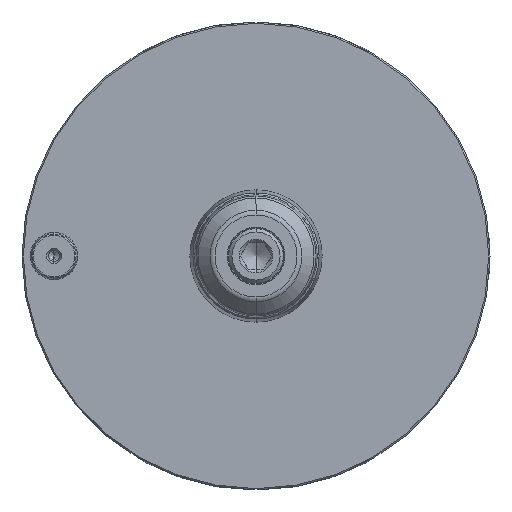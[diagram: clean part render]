
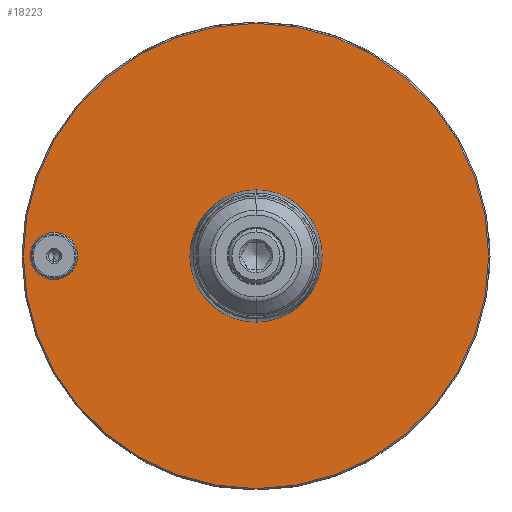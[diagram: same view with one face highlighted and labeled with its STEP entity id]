
A CAD part, left-side view. The second image highlights one B-rep face of the part: STEP entity #18223.
In plain terms, the highlighted planar face has unit normal (-1, 0, 0).
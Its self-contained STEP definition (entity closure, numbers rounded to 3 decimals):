
#98 = ORIENTED_EDGE ( 'NONE', *, *, #20475, .T. ) ;
#175 = CARTESIAN_POINT ( 'NONE',  ( 0., -0.102, 69.1 ) ) ;
#365 = DIRECTION ( 'NONE',  ( -1., 0., 0. ) ) ;
#412 = AXIS2_PLACEMENT_3D ( 'NONE', #15147, #12913, #11077 ) ;
#549 = LINE ( 'NONE', #14950, #13943 ) ;
#753 = CARTESIAN_POINT ( 'NONE',  ( 0., 0., 12.9 ) ) ;
#787 = DIRECTION ( 'NONE',  ( -1., 0., 0. ) ) ;
#1574 = VECTOR ( 'NONE', #14559, 1000. ) ;
#1661 = CARTESIAN_POINT ( 'NONE',  ( 0., 0., 0. ) ) ;
#1932 = EDGE_CURVE ( 'NONE', #6417, #8607, #549, .T. ) ;
#1961 = EDGE_CURVE ( 'NONE', #4374, #12689, #12014, .T. ) ;
#2098 = CIRCLE ( 'NONE', #9000, 69.1 ) ;
#2140 = CIRCLE ( 'NONE', #412, 6.4 ) ;
#2178 = CARTESIAN_POINT ( 'NONE',  ( 0., 0., 68.998 ) ) ;
#2718 = AXIS2_PLACEMENT_3D ( 'NONE', #6961, #787, #10315 ) ;
#2949 = CARTESIAN_POINT ( 'NONE',  ( 0., 0., -68.998 ) ) ;
#3073 = CARTESIAN_POINT ( 'NONE',  ( 0., 0., 0. ) ) ;
#3400 = VERTEX_POINT ( 'NONE', #11664 ) ;
#3621 = AXIS2_PLACEMENT_3D ( 'NONE', #15264, #11479, #7547 ) ;
#3754 = EDGE_CURVE ( 'NONE', #8130, #15704, #6166, .T. ) ;
#4322 = ORIENTED_EDGE ( 'NONE', *, *, #4701, .T. ) ;
#4374 = VERTEX_POINT ( 'NONE', #18615 ) ;
#4699 = ORIENTED_EDGE ( 'NONE', *, *, #15340, .F. ) ;
#4701 = EDGE_CURVE ( 'NONE', #12033, #4374, #10556, .T. ) ;
#5167 = DIRECTION ( 'NONE',  ( 0., 0.707, 0.707 ) ) ;
#5409 = DIRECTION ( 'NONE',  ( 0., 0., 1. ) ) ;
#5856 = ORIENTED_EDGE ( 'NONE', *, *, #16210, .F. ) ;
#6166 = CIRCLE ( 'NONE', #2718, 12.9 ) ;
#6417 = VERTEX_POINT ( 'NONE', #10889 ) ;
#6961 = CARTESIAN_POINT ( 'NONE',  ( 0., 0., 0. ) ) ;
#7361 = ORIENTED_EDGE ( 'NONE', *, *, #18460, .T. ) ;
#7411 = DIRECTION ( 'NONE',  ( 0., 0.707, -0.707 ) ) ;
#7547 = DIRECTION ( 'NONE',  ( 0., 0., 1. ) ) ;
#8130 = VERTEX_POINT ( 'NONE', #753 ) ;
#8211 = DIRECTION ( 'NONE',  ( 0., 0., 1. ) ) ;
#8421 = CARTESIAN_POINT ( 'NONE',  ( 0., 0., 0. ) ) ;
#8538 = CARTESIAN_POINT ( 'NONE',  ( 0., 0.102, -69.1 ) ) ;
#8607 = VERTEX_POINT ( 'NONE', #17384 ) ;
#8629 = VECTOR ( 'NONE', #7411, 1000. ) ;
#9000 = AXIS2_PLACEMENT_3D ( 'NONE', #8421, #16761, #8211 ) ;
#9709 = DIRECTION ( 'NONE',  ( -1., 0., 0. ) ) ;
#10045 = EDGE_LOOP ( 'NONE', ( #16357, #14428, #4322, #19490, #98, #7361 ) ) ;
#10234 = CIRCLE ( 'NONE', #21331, 12.9 ) ;
#10238 = PLANE ( 'NONE',  #20965 ) ;
#10315 = DIRECTION ( 'NONE',  ( 0., 0., 1. ) ) ;
#10556 = LINE ( 'NONE', #17477, #8629 ) ;
#10889 = CARTESIAN_POINT ( 'NONE',  ( 0., 0., -68.998 ) ) ;
#10913 = CIRCLE ( 'NONE', #3621, 6.4 ) ;
#11077 = DIRECTION ( 'NONE',  ( 0., 0., 1. ) ) ;
#11321 = EDGE_CURVE ( 'NONE', #8607, #12033, #2098, .T. ) ;
#11371 = CARTESIAN_POINT ( 'NONE',  ( 0., 60., 6.4 ) ) ;
#11479 = DIRECTION ( 'NONE',  ( -1., 0., 0. ) ) ;
#11664 = CARTESIAN_POINT ( 'NONE',  ( 0., 60., -6.4 ) ) ;
#11673 = CARTESIAN_POINT ( 'NONE',  ( 0., 0.102, 69.1 ) ) ;
#11690 = DIRECTION ( 'NONE',  ( 0., -0.707, -0.707 ) ) ;
#12014 = LINE ( 'NONE', #2178, #19513 ) ;
#12033 = VERTEX_POINT ( 'NONE', #175 ) ;
#12072 = CARTESIAN_POINT ( 'NONE',  ( 0., 12.9, 0. ) ) ;
#12660 = EDGE_CURVE ( 'NONE', #14546, #3400, #2140, .T. ) ;
#12689 = VERTEX_POINT ( 'NONE', #11673 ) ;
#12913 = DIRECTION ( 'NONE',  ( -1., 0., 0. ) ) ;
#13943 = VECTOR ( 'NONE', #11690, 1000. ) ;
#14428 = ORIENTED_EDGE ( 'NONE', *, *, #11321, .T. ) ;
#14546 = VERTEX_POINT ( 'NONE', #11371 ) ;
#14559 = DIRECTION ( 'NONE',  ( 0., -0.707, 0.707 ) ) ;
#14950 = CARTESIAN_POINT ( 'NONE',  ( 0., -4.977, -73.975 ) ) ;
#15117 = FACE_BOUND ( 'NONE', #15641, .T. ) ;
#15147 = CARTESIAN_POINT ( 'NONE',  ( 0., 60., 0. ) ) ;
#15221 = VERTEX_POINT ( 'NONE', #8538 ) ;
#15230 = FACE_OUTER_BOUND ( 'NONE', #10045, .T. ) ;
#15264 = CARTESIAN_POINT ( 'NONE',  ( 0., 60., 0. ) ) ;
#15340 = EDGE_CURVE ( 'NONE', #3400, #14546, #10913, .T. ) ;
#15641 = EDGE_LOOP ( 'NONE', ( #15841, #4699 ) ) ;
#15704 = VERTEX_POINT ( 'NONE', #19407 ) ;
#15841 = ORIENTED_EDGE ( 'NONE', *, *, #12660, .F. ) ;
#16210 = EDGE_CURVE ( 'NONE', #15704, #8130, #10234, .T. ) ;
#16298 = DIRECTION ( 'NONE',  ( 0., 0., 1. ) ) ;
#16357 = ORIENTED_EDGE ( 'NONE', *, *, #1932, .T. ) ;
#16761 = DIRECTION ( 'NONE',  ( -1., 0., 0. ) ) ;
#16950 = DIRECTION ( 'NONE',  ( 0., 0., -1. ) ) ;
#17384 = CARTESIAN_POINT ( 'NONE',  ( 0., -0.102, -69.1 ) ) ;
#17477 = CARTESIAN_POINT ( 'NONE',  ( 0., -4.977, 73.975 ) ) ;
#17892 = CIRCLE ( 'NONE', #18598, 69.1 ) ;
#18223 = ADVANCED_FACE ( 'NONE', ( #15117, #20336, #15230 ), #10238, .F. ) ;
#18370 = ORIENTED_EDGE ( 'NONE', *, *, #3754, .F. ) ;
#18460 = EDGE_CURVE ( 'NONE', #15221, #6417, #19770, .T. ) ;
#18598 = AXIS2_PLACEMENT_3D ( 'NONE', #1661, #365, #5409 ) ;
#18615 = CARTESIAN_POINT ( 'NONE',  ( 0., 0., 68.998 ) ) ;
#18704 = DIRECTION ( 'NONE',  ( 1., 0., 0. ) ) ;
#19276 = EDGE_LOOP ( 'NONE', ( #18370, #5856 ) ) ;
#19407 = CARTESIAN_POINT ( 'NONE',  ( 0., 0., -12.9 ) ) ;
#19490 = ORIENTED_EDGE ( 'NONE', *, *, #1961, .T. ) ;
#19513 = VECTOR ( 'NONE', #5167, 1000. ) ;
#19770 = LINE ( 'NONE', #2949, #1574 ) ;
#20336 = FACE_BOUND ( 'NONE', #19276, .T. ) ;
#20475 = EDGE_CURVE ( 'NONE', #12689, #15221, #17892, .T. ) ;
#20965 = AXIS2_PLACEMENT_3D ( 'NONE', #12072, #18704, #16950 ) ;
#21331 = AXIS2_PLACEMENT_3D ( 'NONE', #3073, #9709, #16298 ) ;
